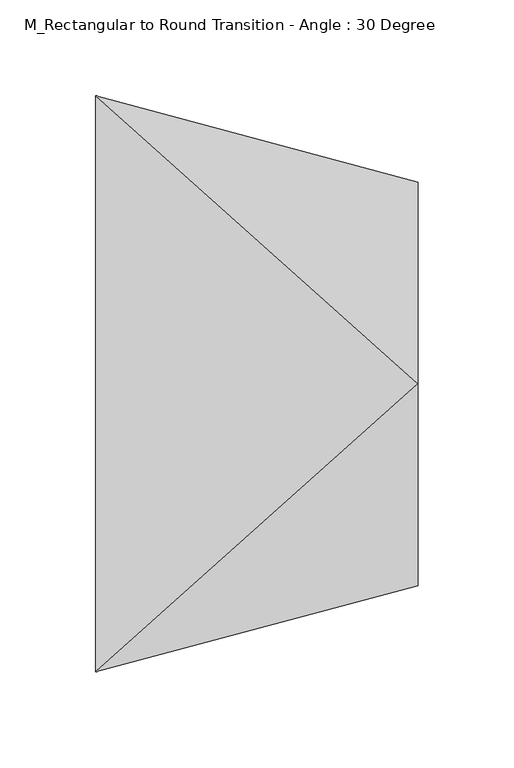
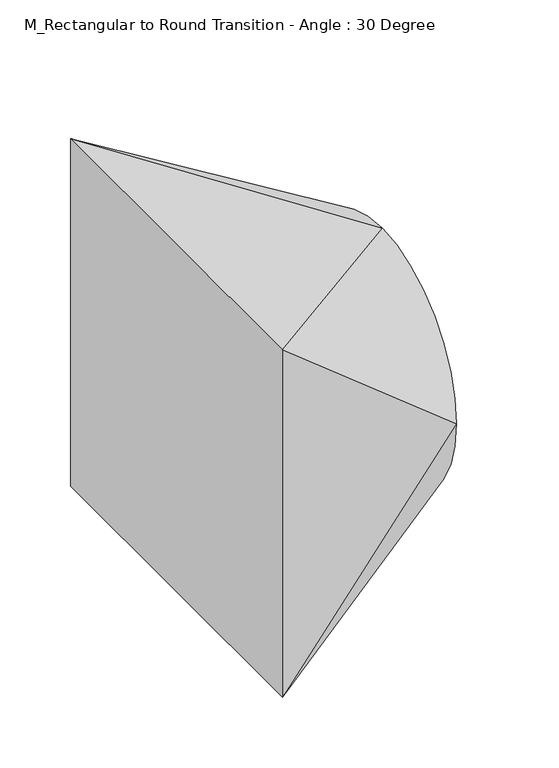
"""IFC4 building model written with IfcOpenShell, lengths in millimetres: duct fitting geometry, M_Rectangular to Round Transition - Angle : 30 Degree."""

from ifc_helpers import new_model, si_unit, frame, origin, place, context, project, spatial, circle_curve, source, transform, mapped, element, save
from ifc_brep_helpers import plane_surface, spline_surface, advanced_brep


def m_rectangular_to_round_transition_angle_30_degree_390e36da(model_context):
    return source(origin(), model_context, "Body", "AdvancedBrep", [
        advanced_brep(
        [(167.9422863, 0.0, 105.0), (167.9422863, -105.0, 0.0), (167.9422863, 0.0, -105.0), (167.9422863, 105.0, 0.0), (0.0, -150.0, 150.0), (0.0, 150.0, 150.0), (0.0, 150.0, -150.0), (0.0, -150.0, -150.0)],
        [
            (0, 1, circle_curve(frame((167.9422863, 0.0, 0.0), z_axis=(1.0, 0.0, 0.0), x_axis=(0.0, 1.0, 0.0)), 105.0)),
            (1, 2, circle_curve(frame((167.9422863, 0.0, 0.0), z_axis=(1.0, 0.0, 0.0), x_axis=(0.0, 1.0, 0.0)), 105.0)),
            (2, 3, circle_curve(frame((167.9422863, 0.0, 0.0), z_axis=(1.0, 0.0, 0.0), x_axis=(0.0, 1.0, 0.0)), 105.0)),
            (3, 0, circle_curve(frame((167.9422863, 0.0, 0.0), z_axis=(1.0, 0.0, 0.0), x_axis=(0.0, 1.0, 0.0)), 105.0)),
            (4, 5),
            (5, 6),
            (6, 7),
            (7, 4),
            (0, 4),
            (4, 1),
            (7, 1),
            (7, 2),
            (6, 2),
            (6, 3),
            (5, 3),
            (5, 0),
        ],
        [
            plane_surface(frame((167.9422863, 0.0, 0.0), z_axis=(1.0, 0.0, 0.0), x_axis=(0.0, 0.0, -1.0))),
            plane_surface(frame((0.0, 0.0, 0.0), z_axis=(-1.0, 0.0, 0.0), x_axis=(0.0, 0.0, -1.0))),
            spline_surface(2, 1, [[(0.0, -150.0, 150.0), (167.9422863, 0.0, 105.0)], [(0.0, -150.0, 150.0), (167.9422863, -105.0, 105.0)], [(0.0, -150.0, 150.0), (167.9422863, -105.0, 0.0)]], [3, 3], [2, 2], [0.0, 1.0], [0.0, 1.0], weights=[[1.0, 1.0], [0.7071067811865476, 0.7071067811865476], [1.0, 1.0]]),
            plane_surface(frame((0.0, -150.0, 0.0), z_axis=(0.25881904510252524, -0.9659258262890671, 0.0), x_axis=(0.0, 0.0, -1.0))),
            spline_surface(2, 1, [[(0.0, -150.0, -150.0), (167.9422863, -105.0, 0.0)], [(0.0, -150.0, -150.0), (167.9422863, -105.0, -105.0)], [(0.0, -150.0, -150.0), (167.9422863, 0.0, -105.0)]], [3, 3], [2, 2], [0.0, 1.0], [0.0, 1.0], weights=[[1.0, 1.0], [0.7071067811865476, 0.7071067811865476], [1.0, 1.0]]),
            plane_surface(frame((0.0, 0.0, -150.0), z_axis=(0.25881904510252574, 0.0, -0.965925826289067), x_axis=(0.0, 1.0, 0.0))),
            spline_surface(2, 1, [[(0.0, 150.0, -150.0), (167.9422863, 0.0, -105.0)], [(0.0, 150.0, -150.0), (167.9422863, 105.0, -105.0)], [(0.0, 150.0, -150.0), (167.9422863, 105.0, 0.0)]], [3, 3], [2, 2], [0.0, 1.0], [0.0, 1.0], weights=[[1.0, 1.0], [0.7071067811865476, 0.7071067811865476], [1.0, 1.0]]),
            plane_surface(frame((0.0, 150.0, 0.0), z_axis=(0.2588190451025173, 0.9659258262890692, 0.0), x_axis=(0.0, 0.0, 1.0))),
            spline_surface(2, 1, [[(0.0, 150.0, 150.0), (167.9422863, 105.0, 0.0)], [(0.0, 150.0, 150.0), (167.9422863, 105.0, 105.0)], [(0.0, 150.0, 150.0), (167.9422863, 0.0, 105.0)]], [3, 3], [2, 2], [0.0, 1.0], [0.0, 1.0], weights=[[1.0, 1.0], [0.7071067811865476, 0.7071067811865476], [1.0, 1.0]]),
            plane_surface(frame((0.0, 0.0, 150.0), z_axis=(0.2588190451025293, 0.0, 0.965925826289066), x_axis=(0.0, -1.0, 0.0))),
        ],
        [
            (0, [[1, 2, 3, 4]]),
            (1, [[5, 6, 7, 8]]),
            (2, [[-1, 9, 10]]),
            (3, [[-8, 11, -10]]),
            (4, [[-2, -11, 12]]),
            (5, [[-7, 13, -12]]),
            (6, [[-3, -13, 14]]),
            (7, [[-6, 15, -14]]),
            (8, [[-4, -15, 16]]),
            (9, [[-5, -9, -16]]),
        ],
    ),
    ])


if __name__ == "__main__":
    model = new_model("IFC4")
    model_context = context("Model", 3, world=origin())
    ifc_project = project(units=[si_unit("LENGTHUNIT", "METRE", prefix="MILLI")], contexts=[model_context])
    site = spatial("IfcSite", under=ifc_project)
    building = spatial("IfcBuilding", under=site)
    placement = place(None, origin())
    m_rectangular_to_round_transition_angle_30_degree_shape = m_rectangular_to_round_transition_angle_30_degree_390e36da(model_context)
    element("IfcDuctFitting", 1, ObjectType="M_Rectangular to Round Transition - Angle : 30 Degree", at=placement, inside=building, context=model_context, shape_type="MappedRepresentation", body=[
        mapped(m_rectangular_to_round_transition_angle_30_degree_shape, transform((0.0, 0.0, 0.0), x_axis=(1.0, 0.0, 0.0), y_axis=(0.0, 1.0, 0.0), z_axis=(0.0, 0.0, 1.0))),
    ])
    save(model, "model.ifc")
